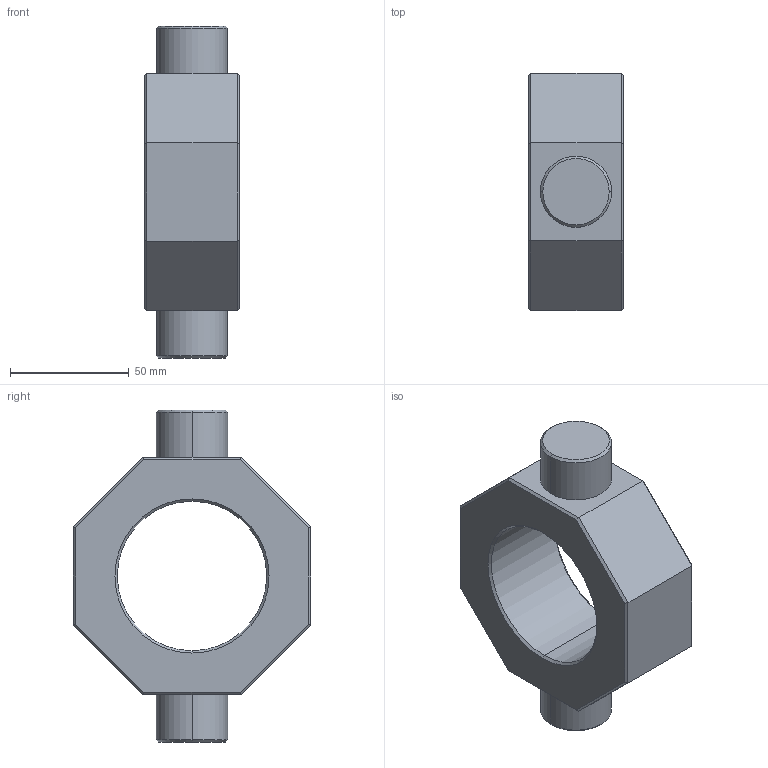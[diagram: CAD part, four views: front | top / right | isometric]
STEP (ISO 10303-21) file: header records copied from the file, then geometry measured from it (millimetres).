
FILE_DESCRIPTION (( 'STEP AP214' ), '1' );
FILE_NAME ('LB-KA-63.STEP', '2025-04-08T13:02:40', ( '' ), ( '' ), 'SwSTEP 2.0', 'SolidWorks 2023', '' );
FILE_SCHEMA (( 'AUTOMOTIVE_DESIGN' ));
Length unit declared in the file: millimetre
Products named in the file (1): LB-KA-63
Bounding box: 40 x 100 x 140 mm (x, y, z)
Volume: 229315.1 mm3; surface area: 37387 mm2
Topology: 1 solids, 1 shells, 78 faces, 174 edges, 94 vertices
Faces by surface type: cone 32, plane 28, cylinder 18
Entity records: 2053 total; most frequent: DIRECTION 376, CARTESIAN_POINT 335, ORIENTED_EDGE 324, EDGE_CURVE 162, AXIS2_PLACEMENT_3D 135, LINE 106, VECTOR 106, VERTEX_POINT 94
